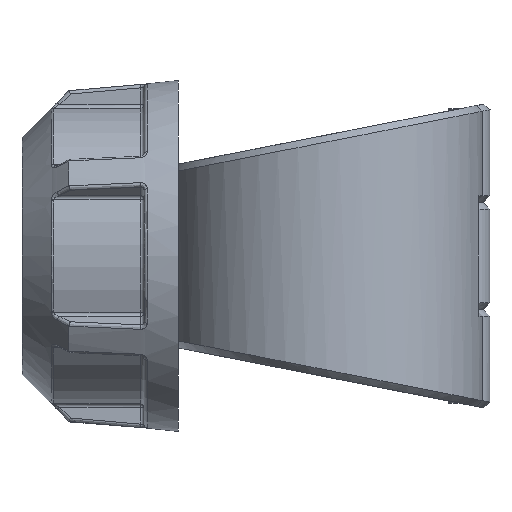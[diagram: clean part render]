
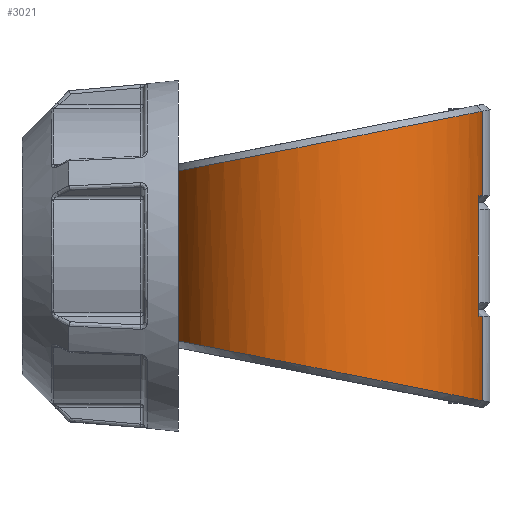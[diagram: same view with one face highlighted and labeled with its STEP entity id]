
A CAD part, left-side view. The second image highlights one B-rep face of the part: STEP entity #3021.
In plain terms, the highlighted cylindrical face has radius 45.5 mm (diameter 91 mm), a partial arc.
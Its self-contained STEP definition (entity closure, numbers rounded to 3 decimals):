
#212=FACE_OUTER_BOUND('',#416,.T.);
#416=EDGE_LOOP('',(#2055,#2056,#2057,#2058,#2059,#2060,#2061,#2062,#2063,
#2064,#2065,#2066));
#623=CIRCLE('',#3251,45.5);
#626=CIRCLE('',#3256,45.5);
#805=B_SPLINE_CURVE_WITH_KNOTS('',3,(#4498,#4499,#4500,#4501),
 .UNSPECIFIED.,.F.,.F.,(4,4),(-0.004,0.),.UNSPECIFIED.);
#806=B_SPLINE_CURVE_WITH_KNOTS('',3,(#4503,#4504,#4505,#4506),
 .UNSPECIFIED.,.F.,.F.,(4,4),(-3.022,-3.021),
 .UNSPECIFIED.);
#807=B_SPLINE_CURVE_WITH_KNOTS('',3,(#4507,#4508,#4509,#4510,#4511,#4512,
#4513,#4514,#4515,#4516),.UNSPECIFIED.,.F.,.F.,(4,1,1,1,1,1,1,4),(0.315,
0.537,0.954,1.371,1.788,2.205,
2.622,3.021),.UNSPECIFIED.);
#808=B_SPLINE_CURVE_WITH_KNOTS('',3,(#4518,#4519,#4520,#4521,#4522,#4523,
#4524,#4525,#4526,#4527),.UNSPECIFIED.,.F.,.F.,(4,1,1,1,1,1,1,4),(-3.021,
-2.622,-2.205,-1.788,-1.371,
-0.954,-0.537,-0.315),.UNSPECIFIED.);
#809=B_SPLINE_CURVE_WITH_KNOTS('',3,(#4529,#4530,#4531,#4532),
 .UNSPECIFIED.,.F.,.F.,(4,4),(3.021,3.022),
 .UNSPECIFIED.);
#810=B_SPLINE_CURVE_WITH_KNOTS('',3,(#4534,#4535,#4536,#4537),
 .UNSPECIFIED.,.F.,.F.,(4,4),(-1.087,-1.085),
 .UNSPECIFIED.);
#972=LINE('',#4384,#1093);
#979=LINE('',#4432,#1100);
#985=LINE('',#4496,#1106);
#986=LINE('',#4538,#1107);
#1093=VECTOR('',#3575,10.);
#1100=VECTOR('',#3592,10.);
#1106=VECTOR('',#3638,10.);
#1107=VECTOR('',#3639,10.);
#1216=VERTEX_POINT('',#4376);
#1217=VERTEX_POINT('',#4383);
#1229=VERTEX_POINT('',#4426);
#1230=VERTEX_POINT('',#4431);
#1236=VERTEX_POINT('',#4452);
#1239=VERTEX_POINT('',#4473);
#1243=VERTEX_POINT('',#4495);
#1244=VERTEX_POINT('',#4497);
#1245=VERTEX_POINT('',#4502);
#1246=VERTEX_POINT('',#4517);
#1247=VERTEX_POINT('',#4528);
#1248=VERTEX_POINT('',#4533);
#1510=EDGE_CURVE('',#1216,#1217,#972,.T.);
#1524=EDGE_CURVE('',#1229,#1230,#979,.T.);
#1537=EDGE_CURVE('',#1236,#1229,#623,.T.);
#1542=EDGE_CURVE('',#1230,#1239,#626,.T.);
#1548=EDGE_CURVE('',#1243,#1236,#985,.T.);
#1549=EDGE_CURVE('',#1244,#1243,#805,.T.);
#1550=EDGE_CURVE('',#1244,#1245,#806,.T.);
#1551=EDGE_CURVE('',#1217,#1245,#807,.T.);
#1552=EDGE_CURVE('',#1246,#1216,#808,.T.);
#1553=EDGE_CURVE('',#1246,#1247,#809,.T.);
#1554=EDGE_CURVE('',#1248,#1247,#810,.T.);
#1555=EDGE_CURVE('',#1239,#1248,#986,.T.);
#2055=ORIENTED_EDGE('',*,*,#1542,.F.);
#2056=ORIENTED_EDGE('',*,*,#1524,.F.);
#2057=ORIENTED_EDGE('',*,*,#1537,.F.);
#2058=ORIENTED_EDGE('',*,*,#1548,.F.);
#2059=ORIENTED_EDGE('',*,*,#1549,.F.);
#2060=ORIENTED_EDGE('',*,*,#1550,.T.);
#2061=ORIENTED_EDGE('',*,*,#1551,.F.);
#2062=ORIENTED_EDGE('',*,*,#1510,.F.);
#2063=ORIENTED_EDGE('',*,*,#1552,.F.);
#2064=ORIENTED_EDGE('',*,*,#1553,.T.);
#2065=ORIENTED_EDGE('',*,*,#1554,.F.);
#2066=ORIENTED_EDGE('',*,*,#1555,.F.);
#2962=CYLINDRICAL_SURFACE('',#3261,45.5);
#3021=ADVANCED_FACE('',(#212),#2962,.T.);
#3251=AXIS2_PLACEMENT_3D('',#4468,#3614,#3615);
#3256=AXIS2_PLACEMENT_3D('',#4482,#3624,#3625);
#3261=AXIS2_PLACEMENT_3D('',#4494,#3636,#3637);
#3575=DIRECTION('',(0.,0.,1.));
#3592=DIRECTION('',(0.,0.,-1.));
#3614=DIRECTION('center_axis',(0.,0.,-1.));
#3615=DIRECTION('ref_axis',(0.312,-0.95,0.));
#3624=DIRECTION('center_axis',(0.,0.,1.));
#3625=DIRECTION('ref_axis',(0.312,-0.95,0.));
#3636=DIRECTION('center_axis',(0.,0.,1.));
#3637=DIRECTION('ref_axis',(-0.312,0.95,0.));
#3638=DIRECTION('',(0.,0.,-1.));
#3639=DIRECTION('',(0.,0.,-1.));
#4376=CARTESIAN_POINT('',(-14.207,43.225,-24.696));
#4383=CARTESIAN_POINT('',(-14.207,43.225,24.696));
#4384=CARTESIAN_POINT('',(-14.207,43.225,0.));
#4426=CARTESIAN_POINT('',(-11.743,-43.958,17.575));
#4431=CARTESIAN_POINT('',(-11.743,-43.958,-17.575));
#4432=CARTESIAN_POINT('',(-11.743,-43.958,0.));
#4452=CARTESIAN_POINT('',(-5.414,-45.177,17.575));
#4468=CARTESIAN_POINT('Origin',(0.,0.,17.575));
#4473=CARTESIAN_POINT('',(-5.414,-45.177,-17.575));
#4482=CARTESIAN_POINT('Origin',(0.,0.,-17.575));
#4494=CARTESIAN_POINT('Origin',(0.,0.,0.));
#4495=CARTESIAN_POINT('',(-5.414,-45.177,42.06));
#4496=CARTESIAN_POINT('',(-5.414,-45.177,0.));
#4497=CARTESIAN_POINT('',(-5.384,-45.18,42.079));
#4498=CARTESIAN_POINT('Ctrl Pts',(-5.384,-45.18,42.079));
#4499=CARTESIAN_POINT('Ctrl Pts',(-5.394,-45.179,42.072));
#4500=CARTESIAN_POINT('Ctrl Pts',(-5.404,-45.178,42.066));
#4501=CARTESIAN_POINT('Ctrl Pts',(-5.414,-45.176,42.06));
#4502=CARTESIAN_POINT('',(-5.414,-45.177,42.078));
#4503=CARTESIAN_POINT('Ctrl Pts',(-5.384,-45.18,42.079));
#4504=CARTESIAN_POINT('Ctrl Pts',(-5.394,-45.179,42.079));
#4505=CARTESIAN_POINT('Ctrl Pts',(-5.404,-45.178,42.078));
#4506=CARTESIAN_POINT('Ctrl Pts',(-5.414,-45.177,42.078));
#4507=CARTESIAN_POINT('Ctrl Pts',(-14.206,43.222,24.697));
#4508=CARTESIAN_POINT('Ctrl Pts',(-17.433,42.162,24.904));
#4509=CARTESIAN_POINT('Ctrl Pts',(-26.375,38.081,25.7));
#4510=CARTESIAN_POINT('Ctrl Pts',(-38.409,26.828,27.897));
#4511=CARTESIAN_POINT('Ctrl Pts',(-45.992,8.909,31.407));
#4512=CARTESIAN_POINT('Ctrl Pts',(-45.645,-10.475,35.218));
#4513=CARTESIAN_POINT('Ctrl Pts',(-37.531,-28.007,38.678));
#4514=CARTESIAN_POINT('Ctrl Pts',(-23.277,-40.558,41.162));
#4515=CARTESIAN_POINT('Ctrl Pts',(-11.379,-44.461,41.936));
#4516=CARTESIAN_POINT('Ctrl Pts',(-5.414,-45.177,42.078));
#4517=CARTESIAN_POINT('',(-5.414,-45.177,-42.078));
#4518=CARTESIAN_POINT('Ctrl Pts',(-5.414,-45.177,-42.078));
#4519=CARTESIAN_POINT('Ctrl Pts',(-11.379,-44.461,-41.936));
#4520=CARTESIAN_POINT('Ctrl Pts',(-23.277,-40.558,-41.162));
#4521=CARTESIAN_POINT('Ctrl Pts',(-37.531,-28.007,-38.678));
#4522=CARTESIAN_POINT('Ctrl Pts',(-45.646,-10.474,-35.218));
#4523=CARTESIAN_POINT('Ctrl Pts',(-45.992,8.909,-31.407));
#4524=CARTESIAN_POINT('Ctrl Pts',(-38.411,26.83,-27.897));
#4525=CARTESIAN_POINT('Ctrl Pts',(-26.373,38.079,-25.7));
#4526=CARTESIAN_POINT('Ctrl Pts',(-17.432,42.161,-24.904));
#4527=CARTESIAN_POINT('Ctrl Pts',(-14.206,43.221,-24.697));
#4528=CARTESIAN_POINT('',(-5.384,-45.18,-42.079));
#4529=CARTESIAN_POINT('Ctrl Pts',(-5.414,-45.177,-42.078));
#4530=CARTESIAN_POINT('Ctrl Pts',(-5.404,-45.178,-42.078));
#4531=CARTESIAN_POINT('Ctrl Pts',(-5.394,-45.179,-42.079));
#4532=CARTESIAN_POINT('Ctrl Pts',(-5.384,-45.18,-42.079));
#4533=CARTESIAN_POINT('',(-5.414,-45.177,-42.06));
#4534=CARTESIAN_POINT('Ctrl Pts',(-5.414,-45.176,-42.06));
#4535=CARTESIAN_POINT('Ctrl Pts',(-5.404,-45.178,-42.066));
#4536=CARTESIAN_POINT('Ctrl Pts',(-5.394,-45.179,-42.072));
#4537=CARTESIAN_POINT('Ctrl Pts',(-5.384,-45.18,-42.079));
#4538=CARTESIAN_POINT('',(-5.414,-45.177,0.));
